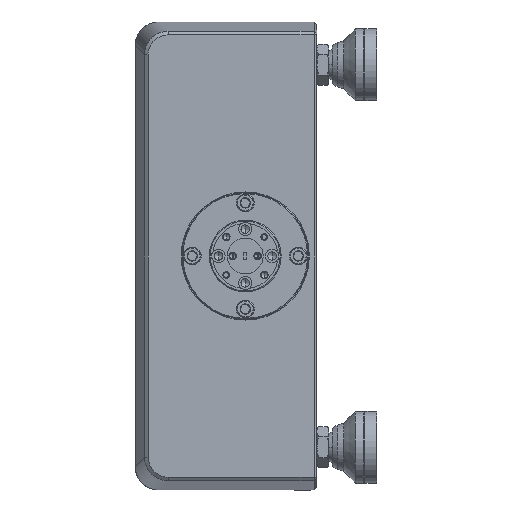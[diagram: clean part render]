
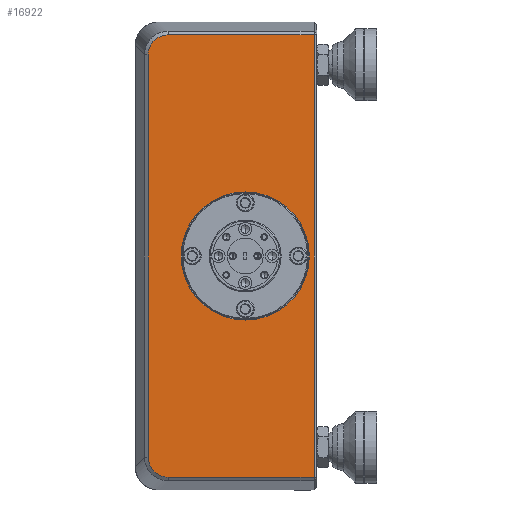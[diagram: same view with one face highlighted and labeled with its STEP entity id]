
A CAD part, left-side view. The second image highlights one B-rep face of the part: STEP entity #16922.
In plain terms, the highlighted planar face has unit normal (-1, 0, 0).
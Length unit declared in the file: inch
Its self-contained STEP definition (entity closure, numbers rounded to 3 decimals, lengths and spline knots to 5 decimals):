
#3969 = EDGE_CURVE ( 'NONE', #30657, #13104, #67621, .T. ) ;
#5239 = CARTESIAN_POINT ( 'NONE',  ( -2.75, -0.66628, -2.13089 ) ) ;
#6529 = AXIS2_PLACEMENT_3D ( 'NONE', #20175, #19774, #6588 ) ;
#6588 = DIRECTION ( 'NONE',  ( 0., 0., 1. ) ) ;
#10101 = EDGE_CURVE ( 'NONE', #58875, #12052, #20280, .T. ) ;
#10376 = CARTESIAN_POINT ( 'NONE',  ( -2.75, -0.66628, -2.1034 ) ) ;
#10700 = CARTESIAN_POINT ( 'NONE',  ( -2.75, -1.48136, 2.31232 ) ) ;
#11153 = DIRECTION ( 'NONE',  ( 0., 0., -1. ) ) ;
#12052 = VERTEX_POINT ( 'NONE', #18533 ) ;
#13104 = VERTEX_POINT ( 'NONE', #15437 ) ;
#13978 = DIRECTION ( 'NONE',  ( 0., 0., -1. ) ) ;
#14380 = LINE ( 'NONE', #37770, #18525 ) ;
#14657 = EDGE_CURVE ( 'NONE', #13104, #41422, #27869, .T. ) ;
#15437 = CARTESIAN_POINT ( 'NONE',  ( -2.75, -2.40136, -2.31232 ) ) ;
#15560 = CIRCLE ( 'NONE', #40510, 0.67 ) ;
#16157 = EDGE_CURVE ( 'NONE', #63191, #74581, #14380, .T. ) ;
#16922 = ADVANCED_FACE ( 'NONE', ( #46422, #51523 ), #40831, .F. ) ;
#16930 = DIRECTION ( 'NONE',  ( 0., 1., 0. ) ) ;
#17092 = ORIENTED_EDGE ( 'NONE', *, *, #3969, .T. ) ;
#18525 = VECTOR ( 'NONE', #13978, 39.37008 ) ;
#18533 = CARTESIAN_POINT ( 'NONE',  ( -2.75, -1.68136, -0.67 ) ) ;
#18895 = CARTESIAN_POINT ( 'NONE',  ( -2.75, -0.82022, 2.30689 ) ) ;
#19774 = DIRECTION ( 'NONE',  ( -1., 0., 0. ) ) ;
#20175 = CARTESIAN_POINT ( 'NONE',  ( -2.75, -1.68136, 0. ) ) ;
#20280 = CIRCLE ( 'NONE', #6529, 0.67 ) ;
#21922 = VERTEX_POINT ( 'NONE', #53270 ) ;
#22767 = LINE ( 'NONE', #10700, #45201 ) ;
#26578 = B_SPLINE_CURVE_WITH_KNOTS ( 'NONE', 3,
 ( #61614, #49028, #18895, #66703, #36830, #60828, #31337, #67856, #49813, #30962 ),
 .UNSPECIFIED., .F., .F.,
 ( 4, 2, 2, 2, 4 ),
 ( 0., 0.25, 0.5, 0.75, 1. ),
 .UNSPECIFIED. ) ;
#26987 = ORIENTED_EDGE ( 'NONE', *, *, #60318, .T. ) ;
#27869 = LINE ( 'NONE', #51821, #69375 ) ;
#29091 = CARTESIAN_POINT ( 'NONE',  ( -2.75, -0.82021, -2.30689 ) ) ;
#29103 = DIRECTION ( 'NONE',  ( 1., 0., 0. ) ) ;
#30657 = VERTEX_POINT ( 'NONE', #75687 ) ;
#30962 = CARTESIAN_POINT ( 'NONE',  ( -2.75, -0.66628, 2.1034 ) ) ;
#31337 = CARTESIAN_POINT ( 'NONE',  ( -2.75, -0.69252, 2.20886 ) ) ;
#34159 = CARTESIAN_POINT ( 'NONE',  ( -2.75, -0.69251, -2.20886 ) ) ;
#36830 = CARTESIAN_POINT ( 'NONE',  ( -2.75, -0.74651, 2.2706 ) ) ;
#37770 = CARTESIAN_POINT ( 'NONE',  ( -2.75, -0.66628, 0. ) ) ;
#39822 = VECTOR ( 'NONE', #49966, 39.37008 ) ;
#40510 = AXIS2_PLACEMENT_3D ( 'NONE', #75141, #63367, #75896 ) ;
#40565 = CARTESIAN_POINT ( 'NONE',  ( -2.75, -1.68136, 0.67 ) ) ;
#40831 = PLANE ( 'NONE',  #45015 ) ;
#41070 = EDGE_CURVE ( 'NONE', #41422, #21922, #22767, .T. ) ;
#41206 = CARTESIAN_POINT ( 'NONE',  ( -2.75, -0.7465, -2.27061 ) ) ;
#41422 = VERTEX_POINT ( 'NONE', #74442 ) ;
#45015 = AXIS2_PLACEMENT_3D ( 'NONE', #75834, #29103, #11153 ) ;
#45201 = VECTOR ( 'NONE', #16930, 39.37008 ) ;
#46413 = CARTESIAN_POINT ( 'NONE',  ( -2.75, -0.70801, -2.2321 ) ) ;
#46422 = FACE_OUTER_BOUND ( 'NONE', #63868, .T. ) ;
#49028 = CARTESIAN_POINT ( 'NONE',  ( -2.75, -0.84772, 2.31233 ) ) ;
#49813 = CARTESIAN_POINT ( 'NONE',  ( -2.75, -0.66628, 2.13095 ) ) ;
#49966 = DIRECTION ( 'NONE',  ( 0., -1., 0. ) ) ;
#50649 = ORIENTED_EDGE ( 'NONE', *, *, #16157, .T. ) ;
#51390 = EDGE_CURVE ( 'NONE', #12052, #58875, #15560, .T. ) ;
#51523 = FACE_BOUND ( 'NONE', #61192, .T. ) ;
#51821 = CARTESIAN_POINT ( 'NONE',  ( -2.75, -2.40136, 0. ) ) ;
#52276 = CARTESIAN_POINT ( 'NONE',  ( -2.75, -0.67172, -2.15839 ) ) ;
#53052 = CARTESIAN_POINT ( 'NONE',  ( -2.75, -0.84766, -2.31233 ) ) ;
#53270 = CARTESIAN_POINT ( 'NONE',  ( -2.75, -0.8752, 2.31232 ) ) ;
#54318 = ORIENTED_EDGE ( 'NONE', *, *, #76704, .T. ) ;
#58875 = VERTEX_POINT ( 'NONE', #40565 ) ;
#58911 = ORIENTED_EDGE ( 'NONE', *, *, #14657, .T. ) ;
#59218 = ORIENTED_EDGE ( 'NONE', *, *, #41070, .T. ) ;
#60318 = EDGE_CURVE ( 'NONE', #21922, #63191, #26578, .T. ) ;
#60828 = CARTESIAN_POINT ( 'NONE',  ( -2.75, -0.708, 2.2321 ) ) ;
#61192 = EDGE_LOOP ( 'NONE', ( #71204, #61430 ) ) ;
#61430 = ORIENTED_EDGE ( 'NONE', *, *, #51390, .F. ) ;
#61614 = CARTESIAN_POINT ( 'NONE',  ( -2.75, -0.8752, 2.31232 ) ) ;
#61753 = CARTESIAN_POINT ( 'NONE',  ( -2.75, -1.48136, -2.31232 ) ) ;
#63191 = VERTEX_POINT ( 'NONE', #74614 ) ;
#63367 = DIRECTION ( 'NONE',  ( -1., 0., 0. ) ) ;
#63868 = EDGE_LOOP ( 'NONE', ( #54318, #17092, #58911, #59218, #26987, #50649 ) ) ;
#64264 = CARTESIAN_POINT ( 'NONE',  ( -2.75, -0.66628, -2.1034 ) ) ;
#66703 = CARTESIAN_POINT ( 'NONE',  ( -2.75, -0.76974, 2.28609 ) ) ;
#67621 = LINE ( 'NONE', #61753, #39822 ) ;
#67856 = CARTESIAN_POINT ( 'NONE',  ( -2.75, -0.67171, 2.15839 ) ) ;
#69375 = VECTOR ( 'NONE', #75360, 39.37008 ) ;
#70324 = CARTESIAN_POINT ( 'NONE',  ( -2.75, -0.76974, -2.28609 ) ) ;
#71204 = ORIENTED_EDGE ( 'NONE', *, *, #10101, .F. ) ;
#74442 = CARTESIAN_POINT ( 'NONE',  ( -2.75, -2.40136, 2.31232 ) ) ;
#74581 = VERTEX_POINT ( 'NONE', #64264 ) ;
#74614 = CARTESIAN_POINT ( 'NONE',  ( -2.75, -0.66628, 2.1034 ) ) ;
#75141 = CARTESIAN_POINT ( 'NONE',  ( -2.75, -1.68136, 0. ) ) ;
#75360 = DIRECTION ( 'NONE',  ( 0., 0., 1. ) ) ;
#75687 = CARTESIAN_POINT ( 'NONE',  ( -2.75, -0.8752, -2.31232 ) ) ;
#75834 = CARTESIAN_POINT ( 'NONE',  ( -2.75, -1.48136, 0. ) ) ;
#75896 = DIRECTION ( 'NONE',  ( 0., 0., 1. ) ) ;
#76095 = B_SPLINE_CURVE_WITH_KNOTS ( 'NONE', 3,
 ( #10376, #5239, #52276, #34159, #46413, #41206, #70324, #29091, #53052, #76984 ),
 .UNSPECIFIED., .F., .F.,
 ( 4, 2, 2, 2, 4 ),
 ( 0., 0.25, 0.5, 0.75, 1. ),
 .UNSPECIFIED. ) ;
#76704 = EDGE_CURVE ( 'NONE', #74581, #30657, #76095, .T. ) ;
#76984 = CARTESIAN_POINT ( 'NONE',  ( -2.75, -0.8752, -2.31232 ) ) ;
